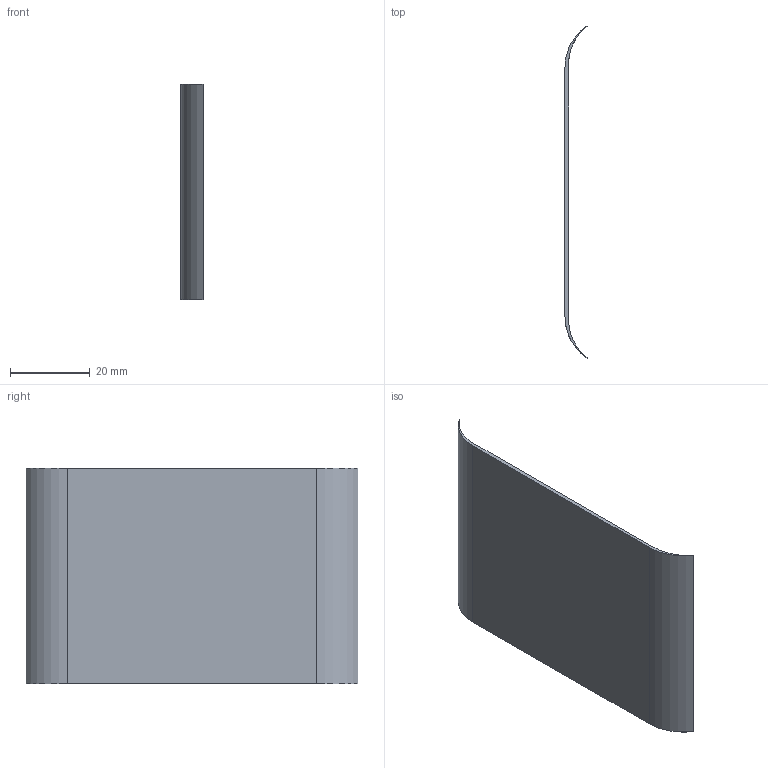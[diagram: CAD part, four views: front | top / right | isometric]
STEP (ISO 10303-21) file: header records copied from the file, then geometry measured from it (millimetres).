
FILE_DESCRIPTION(('Open CASCADE Model'),'2;1');
FILE_NAME('Open CASCADE Shape Model','2026-11-05T01:23:30',('Author'),( 'Open CASCADE'),'Open CASCADE STEP processor 7.8','Open CASCADE 7.8' ,'Unknown');
FILE_SCHEMA(('AUTOMOTIVE_DESIGN { 1 0 10303 214 1 1 1 1 }'));
Length unit declared in the file: millimetre
Products named in the file (1): Open CASCADE STEP translator 7.8 2
Bounding box: 5.52 x 82.93 x 54 mm (x, y, z)
Volume: 3646.5 mm3; surface area: 9449.7 mm2
Topology: 1 solids, 1 shells, 8 faces, 18 edges, 12 vertices
Faces by surface type: plane 4, cylinder 4
Entity records: 492 total; most frequent: CARTESIAN_POINT 111, DIRECTION 74, LINE 38, VECTOR 38, ORIENTED_EDGE 36, PCURVE 36, DEFINITIONAL_REPRESENTATION 36, EDGE_CURVE 18
